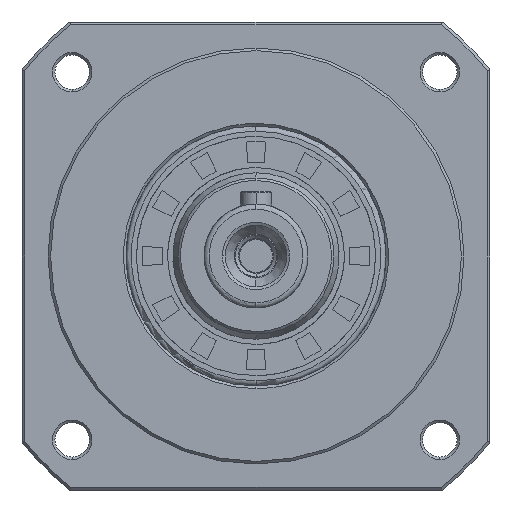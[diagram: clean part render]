
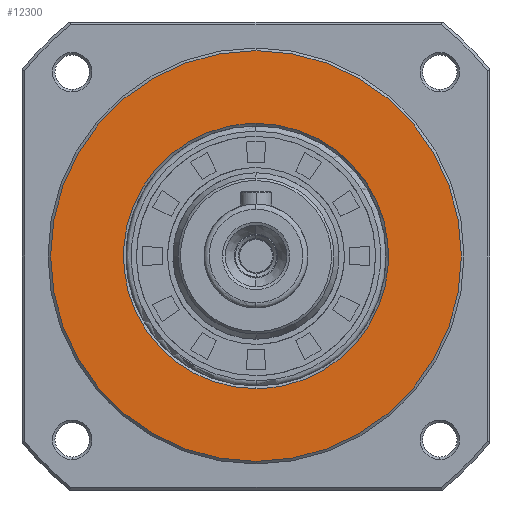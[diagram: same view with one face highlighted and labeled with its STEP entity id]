
A CAD part, left-side view. The second image highlights one B-rep face of the part: STEP entity #12300.
In plain terms, the highlighted planar face has unit normal (-1, 0, 0).
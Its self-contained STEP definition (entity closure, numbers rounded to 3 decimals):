
#3101 = CARTESIAN_POINT ( 'NONE',  ( 0., 25.5, 1.674 ) ) ;
#3437 = CARTESIAN_POINT ( 'NONE',  ( 0., 22.918, 11.305 ) ) ;
#3794 = CARTESIAN_POINT ( 'NONE',  ( 0., 25.337, -3.333 ) ) ;
#4156 = CARTESIAN_POINT ( 'NONE',  ( 0., 11.305, 22.918 ) ) ;
#4432 = CARTESIAN_POINT ( 'NONE',  ( 0., -25.5, 1.674 ) ) ;
#5111 = CARTESIAN_POINT ( 'NONE',  ( 0., -20.272, -15.559 ) ) ;
#10324 = EDGE_LOOP ( 'NONE', ( #40872, #62640 ) ) ;
#11013 = AXIS2_PLACEMENT_3D ( 'NONE', #78023, #61328, #45623 ) ;
#11238 = CARTESIAN_POINT ( 'NONE',  ( 0., 8.212, 24.2 ) ) ;
#11786 = AXIS2_PLACEMENT_3D ( 'NONE', #13021, #62760, #87229 ) ;
#11898 = CARTESIAN_POINT ( 'NONE',  ( 0., -16.848, 19.215 ) ) ;
#12300 = ADVANCED_FACE ( 'NONE', ( #66904, #24831 ), #60975, .F. ) ;
#12327 = CARTESIAN_POINT ( 'NONE',  ( 0., 22.132, 12.775 ) ) ;
#13021 = CARTESIAN_POINT ( 'NONE',  ( 0., -39.974, 39.974 ) ) ;
#13315 = CARTESIAN_POINT ( 'NONE',  ( 0., -24.683, -6.617 ) ) ;
#17607 = CARTESIAN_POINT ( 'NONE',  ( 0., 0., -39.5 ) ) ;
#21100 = CARTESIAN_POINT ( 'NONE',  ( 0., -24.2, 8.212 ) ) ;
#21449 = CARTESIAN_POINT ( 'NONE',  ( 0., -8.212, -24.2 ) ) ;
#24831 = FACE_OUTER_BOUND ( 'NONE', #41051, .T. ) ;
#27193 = CARTESIAN_POINT ( 'NONE',  ( 0., 24.2, 8.212 ) ) ;
#28161 = CARTESIAN_POINT ( 'NONE',  ( 0., -1.674, -25.5 ) ) ;
#28872 = CARTESIAN_POINT ( 'NONE',  ( 0., -24.683, 6.617 ) ) ;
#29776 = EDGE_CURVE ( 'NONE', #95758, #54106, #64620, .T. ) ;
#30749 = ORIENTED_EDGE ( 'NONE', *, *, #90985, .F. ) ;
#35035 = CARTESIAN_POINT ( 'NONE',  ( 0., 16.848, -19.215 ) ) ;
#36036 = CARTESIAN_POINT ( 'NONE',  ( 0., 0., -25.5 ) ) ;
#36456 = CARTESIAN_POINT ( 'NONE',  ( 0., 8.212, -24.2 ) ) ;
#37071 = CARTESIAN_POINT ( 'NONE',  ( 0., -11.305, -22.918 ) ) ;
#40872 = ORIENTED_EDGE ( 'NONE', *, *, #29776, .T. ) ;
#41051 = EDGE_LOOP ( 'NONE', ( #30749, #87948 ) ) ;
#42722 = DIRECTION ( 'NONE',  ( 0., 0., -1. ) ) ;
#43191 = CARTESIAN_POINT ( 'NONE',  ( 0., 24.2, -8.212 ) ) ;
#43390 = VERTEX_POINT ( 'NONE', #17607 ) ;
#43552 = CARTESIAN_POINT ( 'NONE',  ( 0., 11.305, -22.918 ) ) ;
#43896 = CARTESIAN_POINT ( 'NONE',  ( 0., 15.559, 20.272 ) ) ;
#44529 = CARTESIAN_POINT ( 'NONE',  ( 0., -8.212, 24.2 ) ) ;
#44598 = CARTESIAN_POINT ( 'NONE',  ( 0., 24.683, 6.617 ) ) ;
#45256 = CARTESIAN_POINT ( 'NONE',  ( 0., -19.215, -16.848 ) ) ;
#45623 = DIRECTION ( 'NONE',  ( 0., 0., -1. ) ) ;
#49846 = CARTESIAN_POINT ( 'NONE',  ( 0., 0., 25.5 ) ) ;
#50360 = CARTESIAN_POINT ( 'NONE',  ( 0., 1.674, -25.5 ) ) ;
#51760 = CARTESIAN_POINT ( 'NONE',  ( 0., 22.918, -11.305 ) ) ;
#52112 = CARTESIAN_POINT ( 'NONE',  ( 0., 19.215, -16.848 ) ) ;
#52387 = CARTESIAN_POINT ( 'NONE',  ( 0., -11.305, 22.918 ) ) ;
#52759 = CARTESIAN_POINT ( 'NONE',  ( 0., -15.559, -20.272 ) ) ;
#52835 = CARTESIAN_POINT ( 'NONE',  ( 0., 19.215, 16.848 ) ) ;
#53089 = CARTESIAN_POINT ( 'NONE',  ( 0., -1.674, 25.5 ) ) ;
#53397 = CIRCLE ( 'NONE', #11013, 39.5 ) ;
#53425 = CARTESIAN_POINT ( 'NONE',  ( 0., -3.333, -25.337 ) ) ;
#53803 = CARTESIAN_POINT ( 'NONE',  ( 0., -22.132, -12.775 ) ) ;
#54106 = VERTEX_POINT ( 'NONE', #87740 ) ;
#59922 = CARTESIAN_POINT ( 'NONE',  ( 0., 16.848, 19.215 ) ) ;
#60293 = CARTESIAN_POINT ( 'NONE',  ( 0., 22.133, -12.775 ) ) ;
#60569 = CARTESIAN_POINT ( 'NONE',  ( 0., -6.617, 24.683 ) ) ;
#60650 = CARTESIAN_POINT ( 'NONE',  ( 0., 6.617, -24.683 ) ) ;
#60925 = CARTESIAN_POINT ( 'NONE',  ( 0., -19.215, 16.848 ) ) ;
#60975 = PLANE ( 'NONE',  #11786 ) ;
#61007 = CARTESIAN_POINT ( 'NONE',  ( 0., 12.775, 22.133 ) ) ;
#61285 = CARTESIAN_POINT ( 'NONE',  ( 0., -25.337, -3.333 ) ) ;
#61328 = DIRECTION ( 'NONE',  ( 1., 0., 0. ) ) ;
#61649 = CARTESIAN_POINT ( 'NONE',  ( 0., -15.559, 20.272 ) ) ;
#61991 = CARTESIAN_POINT ( 'NONE',  ( 0., -16.848, -19.215 ) ) ;
#62640 = ORIENTED_EDGE ( 'NONE', *, *, #90440, .T. ) ;
#62760 = DIRECTION ( 'NONE',  ( 1., 0., 0. ) ) ;
#64343 = EDGE_CURVE ( 'NONE', #69214, #43390, #53397, .T. ) ;
#64620 = B_SPLINE_CURVE_WITH_KNOTS ( 'NONE', 3,
 ( #93621, #53089, #70175, #60569, #44529, #52387, #77625, #61649, #11898, #60925, #84726, #94313, #69817, #21100, #28872, #77988, #4432, #86130, #61285, #13315, #101411, #102476, #53803, #5111, #45256, #61991, #52759, #76903, #37071, #21449, #102127, #53425, #28161, #36036 ),
 .UNSPECIFIED., .F., .F.,
 ( 4, 2, 2, 2, 2, 2, 2, 2, 2, 2, 2, 2, 2, 2, 2, 2, 4 ),
 ( 0., 0.031, 0.063, 0.094, 0.125, 0.156, 0.188, 0.219, 0.25, 0.281, 0.313, 0.344, 0.375, 0.406, 0.438, 0.469, 0.5 ),
 .UNSPECIFIED. ) ;
#66904 = FACE_BOUND ( 'NONE', #10324, .T. ) ;
#67771 = CARTESIAN_POINT ( 'NONE',  ( 0., 12.775, -22.132 ) ) ;
#68497 = CARTESIAN_POINT ( 'NONE',  ( 0., 0., 25.5 ) ) ;
#69214 = VERTEX_POINT ( 'NONE', #69690 ) ;
#69690 = CARTESIAN_POINT ( 'NONE',  ( 0., 0., 39.5 ) ) ;
#69817 = CARTESIAN_POINT ( 'NONE',  ( 0., -22.918, 11.305 ) ) ;
#70175 = CARTESIAN_POINT ( 'NONE',  ( 0., -3.333, 25.337 ) ) ;
#75082 = CIRCLE ( 'NONE', #94972, 39.5 ) ;
#75902 = CARTESIAN_POINT ( 'NONE',  ( 0., 20.272, -15.559 ) ) ;
#76615 = CARTESIAN_POINT ( 'NONE',  ( 0., 24.683, -6.617 ) ) ;
#76903 = CARTESIAN_POINT ( 'NONE',  ( 0., -12.775, -22.133 ) ) ;
#77625 = CARTESIAN_POINT ( 'NONE',  ( 0., -12.775, 22.132 ) ) ;
#77988 = CARTESIAN_POINT ( 'NONE',  ( 0., -25.337, 3.333 ) ) ;
#78023 = CARTESIAN_POINT ( 'NONE',  ( 0., 0., 0. ) ) ;
#83382 = CARTESIAN_POINT ( 'NONE',  ( 0., 3.333, -25.337 ) ) ;
#84067 = CARTESIAN_POINT ( 'NONE',  ( 0., 1.675, 25.5 ) ) ;
#84451 = CARTESIAN_POINT ( 'NONE',  ( 0., 3.333, 25.337 ) ) ;
#84726 = CARTESIAN_POINT ( 'NONE',  ( 0., -20.272, 15.559 ) ) ;
#86130 = CARTESIAN_POINT ( 'NONE',  ( 0., -25.5, -1.674 ) ) ;
#87229 = DIRECTION ( 'NONE',  ( 0., 0., -1. ) ) ;
#87740 = CARTESIAN_POINT ( 'NONE',  ( 0., 0., -25.5 ) ) ;
#87948 = ORIENTED_EDGE ( 'NONE', *, *, #64343, .F. ) ;
#90440 = EDGE_CURVE ( 'NONE', #54106, #95758, #100016, .T. ) ;
#90528 = CARTESIAN_POINT ( 'NONE',  ( 0., 0., -25.5 ) ) ;
#90985 = EDGE_CURVE ( 'NONE', #43390, #69214, #75082, .T. ) ;
#91428 = CARTESIAN_POINT ( 'NONE',  ( 0., 0., 0. ) ) ;
#93355 = CARTESIAN_POINT ( 'NONE',  ( 0., 25.337, 3.333 ) ) ;
#93621 = CARTESIAN_POINT ( 'NONE',  ( 0., 0., 25.5 ) ) ;
#94313 = CARTESIAN_POINT ( 'NONE',  ( 0., -22.133, 12.775 ) ) ;
#94972 = AXIS2_PLACEMENT_3D ( 'NONE', #91428, #99245, #42722 ) ;
#95758 = VERTEX_POINT ( 'NONE', #49846 ) ;
#99245 = DIRECTION ( 'NONE',  ( 1., 0., 0. ) ) ;
#100016 = B_SPLINE_CURVE_WITH_KNOTS ( 'NONE', 3,
 ( #90528, #50360, #83382, #60650, #36456, #43552, #67771, #100410, #35035, #52112, #75902, #60293, #51760, #43191, #76615, #3794, #101144, #3101, #93355, #44598, #27193, #3437, #12327, #101490, #52835, #59922, #43896, #61007, #4156, #11238, #100070, #84451, #84067, #68497 ),
 .UNSPECIFIED., .F., .F.,
 ( 4, 2, 2, 2, 2, 2, 2, 2, 2, 2, 2, 2, 2, 2, 2, 2, 4 ),
 ( 0.5, 0.531, 0.563, 0.594, 0.625, 0.656, 0.688, 0.719, 0.75, 0.781, 0.813, 0.844, 0.875, 0.906, 0.938, 0.969, 1. ),
 .UNSPECIFIED. ) ;
#100070 = CARTESIAN_POINT ( 'NONE',  ( 0., 6.617, 24.683 ) ) ;
#100410 = CARTESIAN_POINT ( 'NONE',  ( 0., 15.559, -20.272 ) ) ;
#101144 = CARTESIAN_POINT ( 'NONE',  ( 0., 25.5, -1.674 ) ) ;
#101411 = CARTESIAN_POINT ( 'NONE',  ( 0., -24.2, -8.212 ) ) ;
#101490 = CARTESIAN_POINT ( 'NONE',  ( 0., 20.272, 15.559 ) ) ;
#102127 = CARTESIAN_POINT ( 'NONE',  ( 0., -6.617, -24.683 ) ) ;
#102476 = CARTESIAN_POINT ( 'NONE',  ( 0., -22.918, -11.305 ) ) ;
